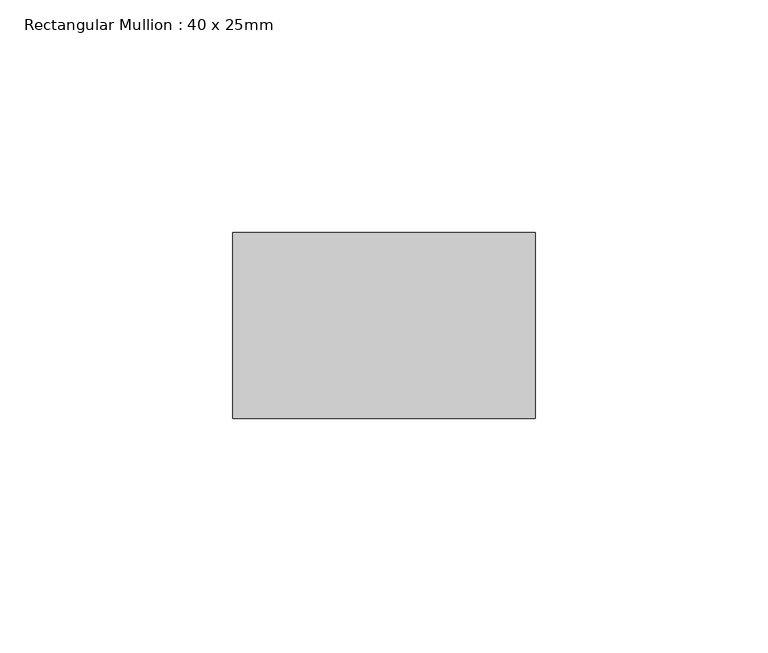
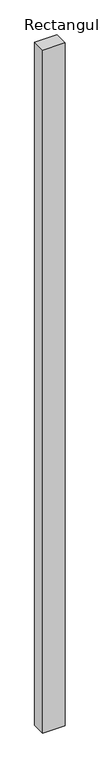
"""IFC4 building model written with IfcOpenShell, lengths in millimetres: member geometry, Rectangular Mullion : 40 x 25mm."""

from ifc_helpers import new_model, si_unit, frame, origin, place, context, project, spatial, polyline, outline, extrude, source, transform, mapped, element, save


def rectangular_mullion_40_x_25mm_c3ec40ac(model_context):
    return source(origin(), model_context, "Body", "SweptSolid", [
        extrude(outline(polyline([(0.0, -20.0), (0.0, -60.0), (-65.0, -60.0), (-65.0, -20.0), (0.0, -20.0)])), frame((0.0, 0.0, -2089.0820804), z_axis=(0.0, 0.0, 1.0), x_axis=(1.0, 0.0, 0.0)), (0.0, 0.0, 1.0), 2089.0820804),
    ])


if __name__ == "__main__":
    model = new_model("IFC4")
    model_context = context("Model", 3, world=origin())
    ifc_project = project(units=[si_unit("LENGTHUNIT", "METRE", prefix="MILLI")], contexts=[model_context])
    site = spatial("IfcSite", under=ifc_project)
    building = spatial("IfcBuilding", under=site)
    placement = place(None, origin())
    rectangular_mullion_40_x_25mm_shape = rectangular_mullion_40_x_25mm_c3ec40ac(model_context)
    element("IfcMember", 1, ObjectType="Rectangular Mullion : 40 x 25mm", at=placement, inside=building, context=model_context, shape_type="MappedRepresentation", body=[
        mapped(rectangular_mullion_40_x_25mm_shape, transform((0.0, 0.0, 0.0), x_axis=(1.0, 0.0, 0.0), y_axis=(0.0, 1.0, 0.0), z_axis=(0.0, 0.0, 1.0))),
    ])
    save(model, "model.ifc")
